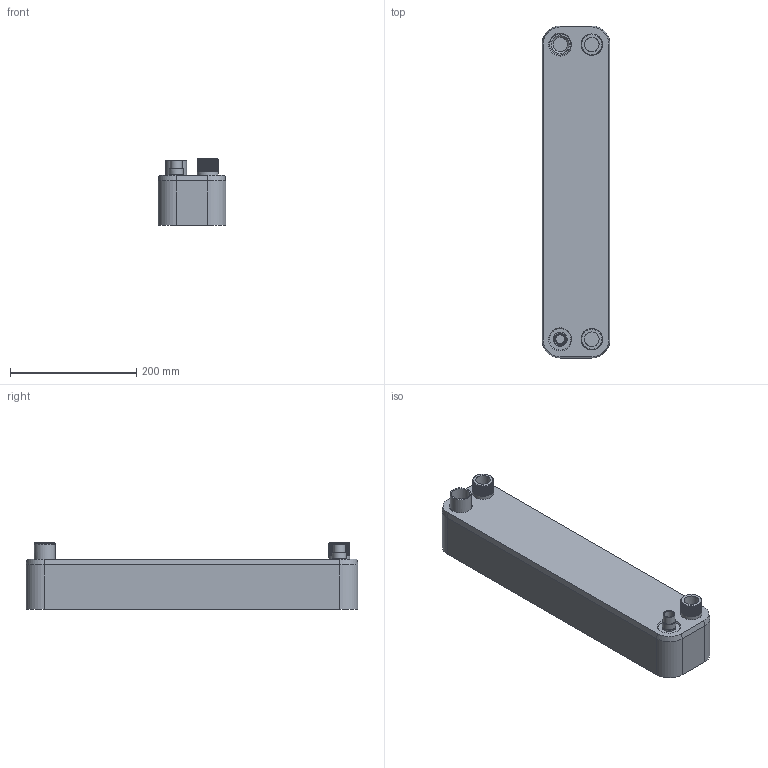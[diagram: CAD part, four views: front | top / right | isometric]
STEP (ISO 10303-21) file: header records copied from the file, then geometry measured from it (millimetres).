
FILE_DESCRIPTION(('TFLEX Exchange Step'),'2;1');
FILE_NAME('021B4541R.stp', '2023-06-19T16:22:40+03:00',('EXT0102'),('Unknown organisation'),'TFLEX Exchange 2022.1','T-FLEX CAD','Unknown authorisation');
FILE_SCHEMA( ('AUTOMOTIVE_DESIGN { 1 0 10303 214 1 1 1 1 }') );
Length unit declared in the file: millimetre
Products named in the file (1): Nodes
Bounding box: 107 x 525 x 105 mm (x, y, z)
Volume: 4130452.9 mm3; surface area: 261162.5 mm2
Topology: 1 solids, 1 shells, 153 faces, 396 edges, 265 vertices
Faces by surface type: cylinder 105, plane 32, cone 12, bspline 4
Full cylindrical faces by diameter (mm): 14.1 x1, 16 x1, 16.1 x1, 18.1 x1, 19 x1, 22 x2, 23 x3, 25.1 x3, 28.7 x1, 32.8 x38, 33 x1, 33.7 x38, 34 x4
Entity records: 512597 total; most frequent: CARTESIAN_POINT 509219, ORIENTED_EDGE 792, DIRECTION 521, EDGE_CURVE 396, VERTEX_POINT 265, B_SPLINE_CURVE_WITH_KNOTS 218, AXIS2_PLACEMENT_3D 193, EDGE_LOOP 173
